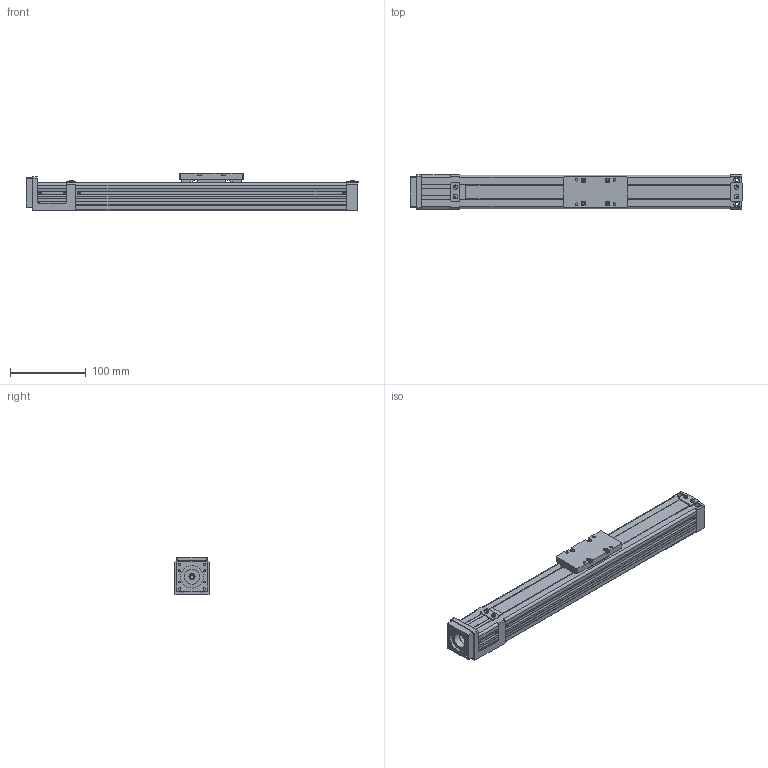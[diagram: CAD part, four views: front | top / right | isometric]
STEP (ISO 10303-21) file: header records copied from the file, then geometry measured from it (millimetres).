
FILE_DESCRIPTION((''),'2;1');
FILE_NAME('D:\製品 (図面)\カタログ用3D\SU部品\SU45×50\ダウンロード用\SU45×50-MB40\SU45×50-250-MB40.stp','2011-06-17T14:36:18',('Tsuchiya'),(''),'Autodesk Inventor 10','Autodesk Inventor 10','');
FILE_SCHEMA(('AUTOMOTIVE_DESIGN { 1 0 10303 214 1 1 1 1 }'));
Length unit declared in the file: millimetre
Products named in the file (3): SU45×50-250-MB40; SB45×50-250-MB40-1(1); SU45×50-T(1)
Assembly tree (2 placements, depth 2):
  SU45×50-250-MB40
    SB45×50-250-MB40-1(1)
    SU45×50-T(1)
Bounding box: 439 x 45 x 50 mm (x, y, z)
Volume: 291766.9 mm3; surface area: 178447.6 mm2
Topology: 2 solids, 8 shells, 695 faces, 1850 edges, 1222 vertices
Faces by surface type: plane 527, cylinder 96, bspline 41, torus 18, cone 13
Full cylindrical faces by diameter (mm): 2.459 x4, 3.242 x8, 3.4 x4, 4 x6, 4.5 x10, 5 x4, 6 x5, 7 x6, 8 x7, 10 x1, 20 x2, 30 x2
Entity records: 21171 total; most frequent: CARTESIAN_POINT 4501, ORIENTED_EDGE 3380, DIRECTION 3214, EDGE_CURVE 1690, VECTOR 1320, LINE 1320, VERTEX_POINT 1176, AXIS2_PLACEMENT_3D 947
